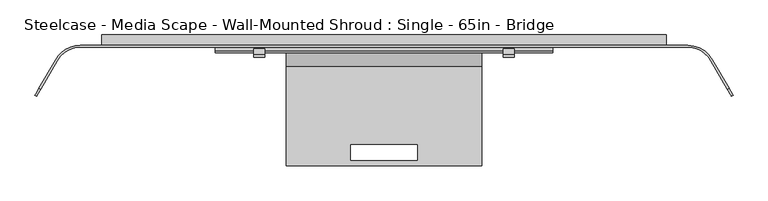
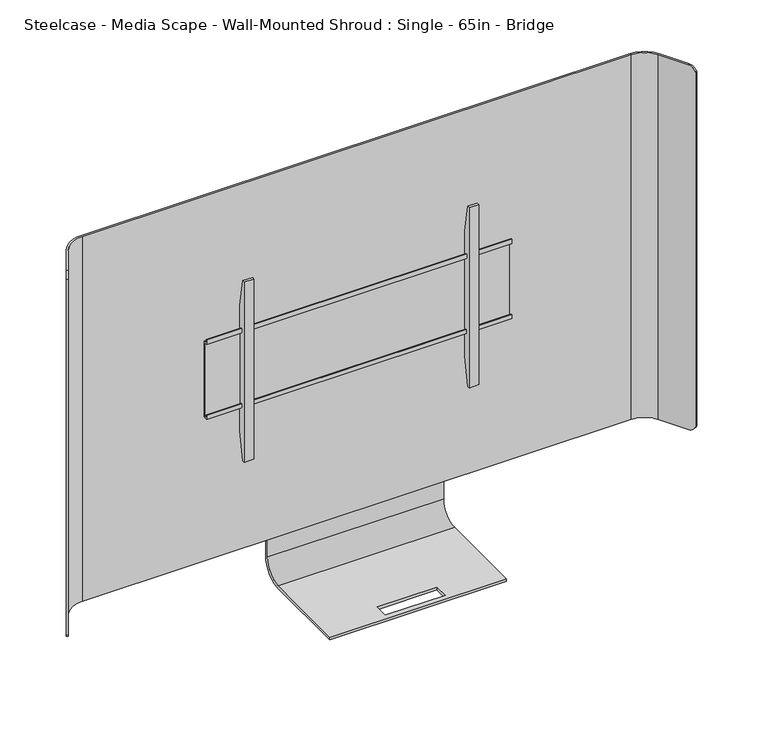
"""IFC4 building model written with IfcOpenShell, lengths in millimetres: furniture geometry, Steelcase - Media Scape - Wall-Mounted Shroud : Single - 65in - Bridge."""

from ifc_helpers import new_model, si_unit, frame, origin, place, context, project, spatial, polyline, circle_curve, outline, extrude, source, transform, mapped, element, save
from ifc_brep_helpers import plane_surface, cylinder_surface, revolved_surface, advanced_brep


def steelcase_media_scape_wall_mounted_shroud_single_65in_bridge_b7c3bce4(model_context):
    return source(origin(), model_context, "Body", "SolidModel", [
        advanced_brep(
        [(234.9499879, -25.4, 783.5646188), (234.9499879, -75.8697585, 733.0948603), (234.9499879, -314.3253876, 733.0948603), (234.9499879, -314.3253876, 725.1446188), (234.9499879, -75.8696132, 725.1446188), (234.9499879, -17.4496132, 783.5646188), (234.9499879, -17.4496132, 1253.7947876), (234.9499879, -25.4, 1253.7947876), (-234.9499879, -25.4, 783.5646188), (-234.9499879, -25.4, 1253.7947876), (-234.9499879, -17.4496132, 1253.7947876), (-234.9499879, -17.4496132, 783.5646188), (-234.9499879, -75.8696132, 725.1446188), (-234.9499879, -314.3253876, 725.1446188), (-234.9499879, -314.3253876, 733.0948603), (-234.9499879, -75.8697585, 733.0948603), (-79.502, -263.5253876, 733.0948603), (79.502, -263.5253876, 733.0948603), (79.502, -301.6253876, 733.0948603), (-79.502, -301.6253876, 733.0948603), (79.502, -263.5253876, 725.1446188), (-79.502, -263.5253876, 725.1446188), (-79.502, -301.6253876, 725.1446188), (79.502, -301.6253876, 725.1446188)],
        [
            (0, 1, circle_curve(frame((234.9499879, -75.8697585, 783.5646188), z_axis=(-1.0, 0.0, 0.0), x_axis=(0.0, 1.0, 0.0)), 50.4697585)),
            (1, 2),
            (2, 3),
            (3, 4),
            (4, 5, circle_curve(frame((234.9499879, -75.8696132, 783.5646188), z_axis=(1.0, 0.0, 0.0), x_axis=(0.0, 1.0, 0.0)), 58.42)),
            (5, 6),
            (6, 7),
            (7, 0),
            (8, 9),
            (9, 10),
            (10, 11),
            (11, 12, circle_curve(frame((-234.9499879, -75.8696132, 783.5646188), z_axis=(-1.0, 0.0, 0.0), x_axis=(0.0, 1.0, 0.0)), 58.42)),
            (12, 13),
            (13, 14),
            (14, 15),
            (15, 8, circle_curve(frame((-234.9499879, -75.8697585, 783.5646188), z_axis=(1.0, 0.0, 0.0), x_axis=(0.0, 1.0, 0.0)), 50.4697585)),
            (1, 15),
            (14, 2),
            (16, 17),
            (17, 18),
            (18, 19),
            (19, 16),
            (13, 3),
            (12, 4),
            (20, 21),
            (21, 22),
            (22, 23),
            (23, 20),
            (5, 11),
            (10, 6),
            (9, 7),
            (8, 0),
            (20, 17),
            (16, 21),
            (19, 22),
            (18, 23),
        ],
        [
            plane_surface(frame((234.9499879, -25.4, 783.5646188), z_axis=(1.0, 0.0, 0.0), x_axis=(0.0, 0.0, -1.0))),
            plane_surface(frame((-234.9499879, -25.4, 783.5646188), z_axis=(-1.0, 0.0, 0.0), x_axis=(0.0, 0.0, 1.0))),
            plane_surface(frame((234.9499879, -75.8697585, 733.0948603), z_axis=(0.0, 0.0, 1.0), x_axis=(-1.0, 0.0, 0.0))),
            plane_surface(frame((234.9499879, -314.3253876, 733.0948603), z_axis=(0.0, -1.0, 0.0), x_axis=(-1.0, 0.0, 0.0))),
            plane_surface(frame((234.9499879, -314.3253876, 725.1446188), z_axis=(0.0, 0.0, -1.0), x_axis=(-1.0, 0.0, 0.0))),
            plane_surface(frame((234.9499879, -17.4496132, 783.5646188), z_axis=(0.0, 1.0, 0.0), x_axis=(-1.0, 0.0, 0.0))),
            plane_surface(frame((234.9499879, -17.4496132, 1253.7947876), z_axis=(0.0, 0.0, 1.0), x_axis=(-1.0, 0.0, 0.0))),
            plane_surface(frame((234.9499879, -25.4, 1253.7947876), z_axis=(0.0, -1.0, 0.0), x_axis=(-1.0, 0.0, 0.0))),
            revolved_surface(polyline([(-234.9499879, -25.400000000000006, 783.5646188), (234.9499879, -25.400000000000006, 783.5646188)]), (-234.9499879, -75.8697585, 783.5646188), (-1.0, 0.0, 0.0)),
            cylinder_surface(frame((-234.9499879, -75.8696132, 783.5646188), z_axis=(1.0, 0.0, 0.0), x_axis=(0.0, 1.0, 0.0)), 58.42),
            plane_surface(frame((79.502, -263.5253876, 1824.7300588), z_axis=(0.0, -1.0, 0.0), x_axis=(0.0, 0.0, -1.0))),
            plane_surface(frame((-79.502, -263.5253876, 1824.7300588), z_axis=(1.0, 0.0, 0.0), x_axis=(0.0, 0.0, -1.0))),
            plane_surface(frame((-79.502, -301.6253876, 1824.7300588), z_axis=(0.0, 1.0, 0.0), x_axis=(0.0, 0.0, -1.0))),
            plane_surface(frame((79.502, -301.6253876, 1824.7300588), z_axis=(-1.0, 0.0, 0.0), x_axis=(0.0, 0.0, -1.0))),
        ],
        [
            (0, [[1, 2, 3, 4, 5, 6, 7, 8]]),
            (1, [[9, 10, 11, 12, 13, 14, 15, 16]]),
            (2, [[-2, 17, -15, 18], [19, 20, 21, 22]]),
            (3, [[-3, -18, -14, 23]]),
            (4, [[-4, -23, -13, 24], [25, 26, 27, 28]]),
            (5, [[-6, 29, -11, 30]]),
            (6, [[-7, -30, -10, 31]]),
            (7, [[-8, -31, -9, 32]]),
            (8, [[-1, -32, -16, -17]]),
            (9, [[-5, -24, -12, -29]]),
            (10, [[33, -19, 34, -25]]),
            (11, [[-34, -22, 35, -26]]),
            (12, [[-35, -21, 36, -27]]),
            (13, [[-33, -28, -36, -20]]),
        ],
    ),
        extrude(outline(polyline([(-42.4942785, 1453.5504726), (-42.4942785, 1465.5645649), (-39.8272175, 1465.5645649), (-39.8272175, 1456.217461), (-29.9720009, 1456.217461), (-29.9720009, 1241.8922438), (-42.3164551, 1241.8922438), (-42.3164551, 1252.8142515), (-39.649394, 1252.8142515), (-39.649394, 1244.557052), (-32.6531824, 1244.557052), (-32.6531824, 1453.5504726), (-42.4942785, 1453.5504726)])), frame((-406.4, 0.0, 0.0), z_axis=(1.0, 0.0, 0.0), x_axis=(0.0, 1.0, 0.0)), (0.0, 0.0, 1.0), 812.8),
        extrude(outline(polyline([(-32.6531824, 1524.4971148), (-32.6531824, 1172.6825607), (-46.5049349, 1095.0546949), (-53.3399828, 1095.0546949), (-53.3399828, 1603.0547192), (-46.5050076, 1603.0547192), (-32.6531824, 1524.4971148)])), frame((286.6392868, 0.0, 0.0), z_axis=(1.0, 0.0, 0.0), x_axis=(0.0, 1.0, 0.0)), (0.0, 0.0, 1.0), 26.1592872),
        extrude(outline(polyline([(-32.6531824, 1524.4971148), (-32.6531824, 1172.6825607), (-46.5049349, 1095.0546949), (-53.3399828, 1095.0546949), (-53.3399828, 1603.0547192), (-46.5050076, 1603.0547192), (-32.6531824, 1524.4971148)])), frame((-312.798574, 0.0, 0.0), z_axis=(1.0, 0.0, 0.0), x_axis=(0.0, 1.0, 0.0)), (0.0, 0.0, 1.0), 26.1592872),
        advanced_brep(
        [(-786.2586135, -61.722, 1864.614), (-731.266002, -29.9720009, 1864.614), (731.266, -29.9720009, 1864.614), (786.2586135, -61.722, 1864.614), (826.379586, -131.2135628, 1864.614), (830.3390541, -128.9275628, 1864.614), (790.2180817, -59.436, 1864.614), (731.266002, -25.4, 1864.614), (-731.266, -25.4, 1864.614), (-790.2180817, -59.436, 1864.614), (-830.3421659, -128.9329524, 1864.614), (-826.3826977, -131.2189524, 1864.614), (-790.2180817, -59.436, 835.914), (-731.266002, -25.4, 835.914), (731.266, -25.4, 835.914), (790.2180817, -59.436, 835.914), (830.3906629, -129.0169518, 835.914), (826.4311948, -131.3029518, 835.914), (786.2586135, -61.722, 835.914), (731.266002, -29.9720009, 835.914), (-731.266, -29.9720009, 835.914), (-786.2586135, -61.722, 835.914), (-826.4454014, -131.3275584, 835.914), (-830.4048695, -129.0415584, 835.914), (-839.9090632, -145.5033047, 849.5242766), (-839.9090632, -145.5033047, 1850.6227735), (-835.9495951, -147.7893047, 1850.6227735), (-835.9495951, -147.7893047, 849.5242766), (835.9270866, -147.7503189, 849.4756893), (835.9270866, -147.7503189, 1850.7433849), (839.8865547, -145.4643189, 1850.7433849), (839.8865547, -145.4643189, 849.4756893)],
        [
            (0, 1, circle_curve(frame((-731.266002, -93.4719991, 1864.614), z_axis=(0.0, 0.0, -1.0), x_axis=(0.0, 1.0, 0.0)), 63.4999981)),
            (1, 2),
            (2, 3, circle_curve(frame((731.266002, -93.4719991, 1864.614), z_axis=(0.0, 0.0, -1.0), x_axis=(0.0, 1.0, 0.0)), 63.4999981)),
            (3, 4),
            (4, 5),
            (5, 6),
            (6, 7, circle_curve(frame((731.2660004, -93.472, 1864.614), z_axis=(0.0, 0.0, 1.0), x_axis=(0.0, 1.0, 0.0)), 68.072)),
            (7, 8),
            (8, 9, circle_curve(frame((-731.2660004, -93.472, 1864.614), z_axis=(0.0, 0.0, 1.0), x_axis=(0.0, 1.0, 0.0)), 68.072)),
            (9, 10),
            (10, 11),
            (11, 0),
            (12, 13, circle_curve(frame((-731.2660004, -93.472, 835.914), z_axis=(0.0, 0.0, -1.0), x_axis=(0.0, 1.0, 0.0)), 68.072)),
            (13, 14),
            (14, 15, circle_curve(frame((731.2660004, -93.472, 835.914), z_axis=(0.0, 0.0, -1.0), x_axis=(0.0, 1.0, 0.0)), 68.072)),
            (15, 16),
            (16, 17),
            (17, 18),
            (18, 19, circle_curve(frame((731.266002, -93.4719991, 835.914), z_axis=(0.0, 0.0, 1.0), x_axis=(0.0, 1.0, 0.0)), 63.4999981)),
            (19, 20),
            (20, 21, circle_curve(frame((-731.266002, -93.4719991, 835.914), z_axis=(0.0, 0.0, 1.0), x_axis=(0.0, 1.0, 0.0)), 63.4999981)),
            (21, 22),
            (22, 23),
            (23, 12),
            (0, 21),
            (20, 1),
            (8, 13),
            (12, 9),
            (23, 24, circle_curve(frame((-830.4048695, -129.0415584, 855.9928872), z_axis=(-0.8660254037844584, 0.49999999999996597, 0.0), x_axis=(-0.49999999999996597, -0.8660254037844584, 0.0)), 20.0788872)),
            (24, 25),
            (25, 10, circle_curve(frame((-830.3421659, -128.9329524, 1844.5351128), z_axis=(-0.8660254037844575, 0.4999999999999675, 0.0), x_axis=(-0.4999999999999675, -0.8660254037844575, 0.0)), 20.0788872)),
            (26, 25),
            (24, 27),
            (27, 26),
            (11, 26, circle_curve(frame((-826.3826977, -131.2189524, 1844.5351128), z_axis=(0.8660254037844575, -0.4999999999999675, 0.0), x_axis=(-0.4999999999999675, -0.8660254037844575, 0.0)), 20.0788872)),
            (27, 22, circle_curve(frame((-826.4454014, -131.3275584, 855.9928872), z_axis=(0.8660254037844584, -0.49999999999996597, 0.0), x_axis=(-0.49999999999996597, -0.8660254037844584, 0.0)), 20.0788872)),
            (7, 14),
            (19, 2),
            (3, 18),
            (17, 28, circle_curve(frame((826.4311948, -131.3029518, 855.9928872), z_axis=(-0.8660254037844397, -0.49999999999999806, 0.0), x_axis=(0.49999999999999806, -0.8660254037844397, 0.0)), 20.0788872)),
            (28, 29),
            (29, 4, circle_curve(frame((826.379586, -131.2135628, 1844.5351128), z_axis=(-0.8660254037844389, -0.49999999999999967, 0.0), x_axis=(0.49999999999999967, -0.8660254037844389, 0.0)), 20.0788872)),
            (30, 29),
            (28, 31),
            (31, 30),
            (15, 6),
            (5, 30, circle_curve(frame((830.3390541, -128.9275628, 1844.5351128), z_axis=(0.8660254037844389, 0.49999999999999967, 0.0), x_axis=(0.49999999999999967, -0.8660254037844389, 0.0)), 20.0788872)),
            (31, 16, circle_curve(frame((830.3906629, -129.0169518, 855.9928872), z_axis=(0.8660254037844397, 0.49999999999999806, 0.0), x_axis=(0.49999999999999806, -0.8660254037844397, 0.0)), 20.0788872)),
        ],
        [
            plane_surface(frame((-731.266002, -29.9720009, 1864.614), z_axis=(0.0, 0.0, 1.0), x_axis=(1.0, 0.0, 0.0))),
            plane_surface(frame((-731.266002, -29.9720009, 835.914), z_axis=(0.0, 0.0, -1.0), x_axis=(-1.0, 0.0, 0.0))),
            revolved_surface(polyline([(-731.266002, -29.972001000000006, 835.914), (-731.266002, -29.972001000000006, 1864.614)]), (-731.266002, -93.4719991, 835.914), (0.0, 0.0, -1.0)),
            cylinder_surface(frame((-731.2660004, -93.472, 835.914), z_axis=(0.0, 0.0, 1.0), x_axis=(0.0, 1.0, 0.0)), 68.072),
            plane_surface(frame((-790.2180817, -59.436, 1864.614), z_axis=(-0.8660254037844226, 0.5000000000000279, 0.0), x_axis=(0.0, 0.0, -1.0))),
            plane_surface(frame((-839.9090632, -145.5033047, 1864.614), z_axis=(-0.5000000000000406, -0.8660254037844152, 0.0), x_axis=(0.0, 0.0, -1.0))),
            plane_surface(frame((-835.9495951, -147.7893047, 1864.614), z_axis=(0.8660254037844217, -0.5000000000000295, 0.0), x_axis=(0.0, 0.0, -1.0))),
            plane_surface(frame((731.266, -25.4, 1864.614), z_axis=(0.0, 1.0, 0.0), x_axis=(0.0, 0.0, -1.0))),
            plane_surface(frame((-731.266, -29.9720009, 1864.614), z_axis=(0.0, -1.0, 0.0), x_axis=(0.0, 0.0, -1.0))),
            plane_surface(frame((786.2586135, -61.722, 1864.614), z_axis=(-0.8660254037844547, -0.4999999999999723, 0.0), x_axis=(0.0, 0.0, -1.0))),
            plane_surface(frame((835.9270866, -147.7503189, 1864.614), z_axis=(0.4999999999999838, -0.866025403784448, 0.0), x_axis=(0.0, 0.0, -1.0))),
            plane_surface(frame((839.8865547, -145.4643189, 1864.614), z_axis=(0.8660254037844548, 0.49999999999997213, 0.0), x_axis=(0.0, 0.0, -1.0))),
            cylinder_surface(frame((731.2660004, -93.472, 835.914), z_axis=(0.0, 0.0, 1.0), x_axis=(0.0, 1.0, 0.0)), 68.072),
            revolved_surface(polyline([(731.266002, -29.972001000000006, 835.914), (731.266002, -29.972001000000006, 1864.614)]), (731.266002, -93.4719991, 835.914), (0.0, 0.0, -1.0)),
            cylinder_surface(frame((-826.3826977, -131.2189524, 1844.5351128), z_axis=(0.8660254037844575, -0.4999999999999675, 0.0), x_axis=(-0.4999999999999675, -0.8660254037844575, 0.0)), 20.0788872),
            cylinder_surface(frame((-826.4454014, -131.3275584, 855.9928872), z_axis=(0.8660254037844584, -0.49999999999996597, 0.0), x_axis=(-0.49999999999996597, -0.8660254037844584, 0.0)), 20.0788872),
            cylinder_surface(frame((841.4864297, -122.4916225, 1844.5351128), z_axis=(0.8660254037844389, 0.49999999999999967, 0.0), x_axis=(0.49999999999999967, -0.8660254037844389, 0.0)), 20.0788872),
            cylinder_surface(frame((838.6789695, -124.2316958, 855.9928872), z_axis=(0.8660254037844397, 0.49999999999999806, 0.0), x_axis=(0.49999999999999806, -0.8660254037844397, 0.0)), 20.0788872),
        ],
        [
            (0, [[1, 2, 3, 4, 5, 6, 7, 8, 9, 10, 11, 12]]),
            (1, [[13, 14, 15, 16, 17, 18, 19, 20, 21, 22, 23, 24]]),
            (2, [[-1, 25, -21, 26]]),
            (3, [[-9, 27, -13, 28]]),
            (4, [[-28, -24, 29, 30, 31, -10]]),
            (5, [[32, -30, 33, 34]]),
            (6, [[-25, -12, 35, -34, 36, -22]]),
            (7, [[-8, 37, -14, -27]]),
            (8, [[-2, -26, -20, 38]]),
            (9, [[39, -18, 40, 41, 42, -4]]),
            (10, [[43, -41, 44, 45]]),
            (11, [[46, -6, 47, -45, 48, -16]]),
            (12, [[-7, -46, -15, -37]]),
            (13, [[-3, -38, -19, -39]]),
            (14, [[-11, -31, -32, -35]]),
            (15, [[-23, -36, -33, -29]]),
            (16, [[-5, -42, -43, -47]]),
            (17, [[-17, -48, -44, -40]]),
        ],
    ),
        extrude(outline(polyline([(912.1648167, 615.9499879), (912.1648167, 679.45), (1788.414, 679.45), (1788.414, -679.45), (912.1648167, -679.45), (912.1648167, -616.9433465), (1724.9139516, -616.9433465), (1724.9139516, 615.9499879), (912.1648167, 615.9499879)])), frame((0.0, -25.4, 0.0), z_axis=(0.0, 1.0, 0.0), x_axis=(0.0, 0.0, 1.0)), (0.0, 0.0, 1.0), 25.4),
    ])


if __name__ == "__main__":
    model = new_model("IFC4")
    model_context = context("Model", 3, world=origin())
    ifc_project = project(units=[si_unit("LENGTHUNIT", "METRE", prefix="MILLI")], contexts=[model_context])
    site = spatial("IfcSite", under=ifc_project)
    building = spatial("IfcBuilding", under=site)
    placement = place(None, origin())
    steelcase_media_scape_wall_mounted_shroud_single_65in_bridge_shape = steelcase_media_scape_wall_mounted_shroud_single_65in_bridge_b7c3bce4(model_context)
    element("IfcFurniture", 1, ObjectType="Steelcase - Media Scape - Wall-Mounted Shroud : Single - 65in - Bridge", at=placement, inside=building, context=model_context, shape_type="MappedRepresentation", body=[
        mapped(steelcase_media_scape_wall_mounted_shroud_single_65in_bridge_shape, transform((0.0, 0.0, 0.0), x_axis=(1.0, 0.0, 0.0), y_axis=(0.0, 1.0, 0.0), z_axis=(0.0, 0.0, 1.0))),
    ])
    save(model, "model.ifc")
